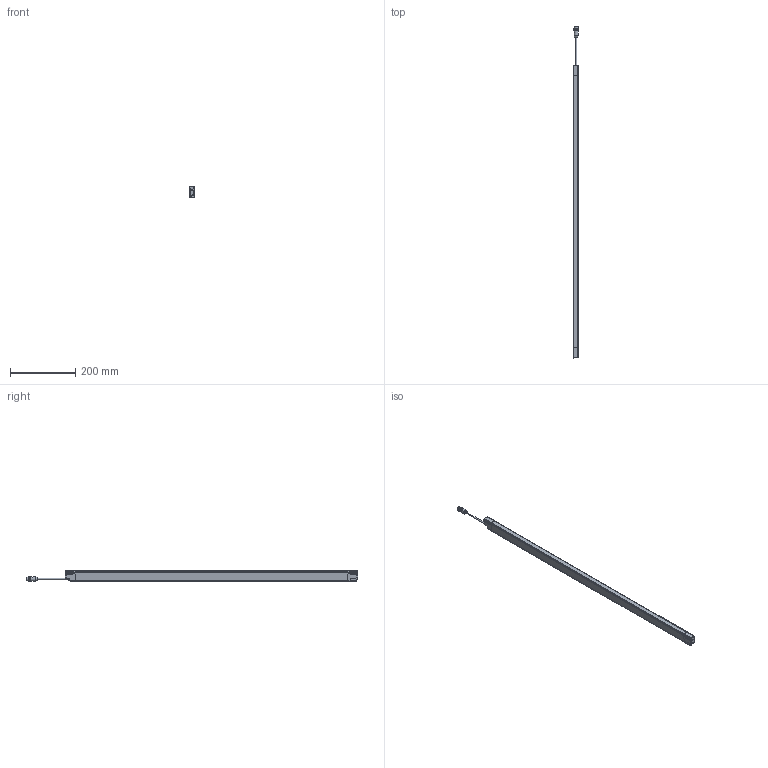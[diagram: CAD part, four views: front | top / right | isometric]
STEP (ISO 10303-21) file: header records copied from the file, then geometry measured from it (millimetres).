
FILE_DESCRIPTION(/* description */ (''),/* implementation_level */ '2;1');
FILE_NAME(/* name */ 'DSD-0645.stp',/* time_stamp */ '2015-02-23T17:43:22+01:00',/* author */ (''),/* organization */ (''),/* preprocessor_version */ 'ST-DEVELOPER v11',/* originating_system */ 'SIEMENS PLM Software NX 7.5',/* authorisation */ '');
FILE_SCHEMA (('AUTOMOTIVE_DESIGN { 1 0 10303 214 1 1 1 1 }'));
Length unit declared in the file: millimetre
Products named in the file (1): AP008167_00
Bounding box: 17.36 x 1020.24 x 33.46 mm (x, y, z)
Surface area: 108271.3 mm2 (no closed solid volume)
Topology: 0 solids, 43 shells, 1072 faces, 3734 edges, 2579 vertices
Faces by surface type: cylinder 393, plane 318, bspline 142, torus 114, sphere 66, cone 39
Full cylindrical faces by diameter (mm): 1 x5, 1.2 x2, 2.6 x6, 4 x1, 8.3 x1, 9.4 x1, 10.4 x1, 12 x1, 13 x1, 13.5 x1, 14.5 x2
Entity records: 46861 total; most frequent: CARTESIAN_POINT 15660, DIRECTION 6675, ORIENTED_EDGE 5779, EDGE_CURVE 3603, VERTEX_POINT 2539, AXIS2_PLACEMENT_3D 2510, LINE 1655, VECTOR 1655
